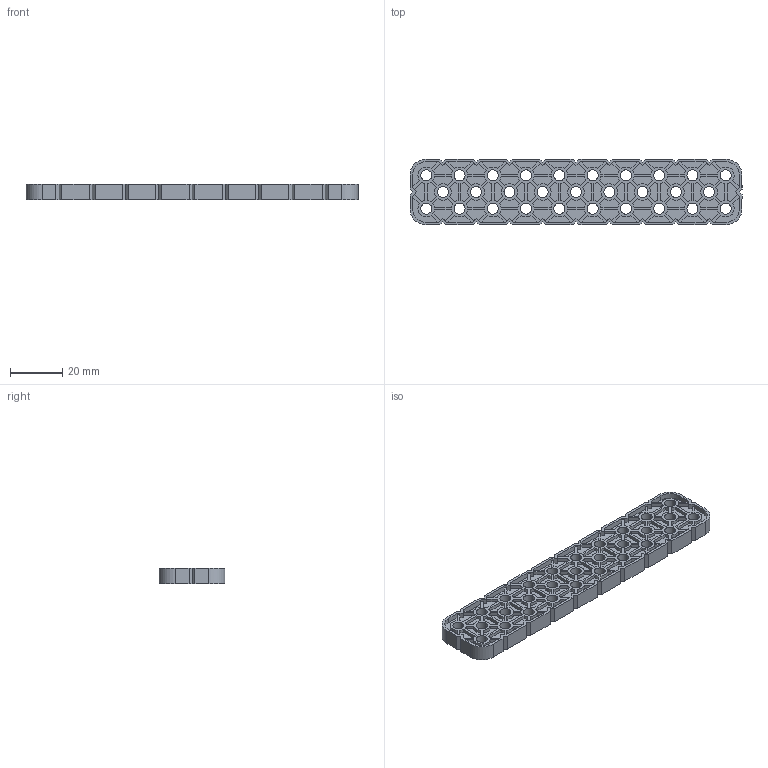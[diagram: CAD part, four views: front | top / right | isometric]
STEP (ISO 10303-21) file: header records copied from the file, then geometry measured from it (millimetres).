
FILE_DESCRIPTION (( 'STEP AP214' ), '1' );
FILE_NAME ('228-2500-025.STEP', '2021-02-18T19:31:48', ( '' ), ( '' ), 'SwSTEP 2.0', 'SolidWorks 2019', '' );
FILE_SCHEMA (( 'AUTOMOTIVE_DESIGN' ));
Length unit declared in the file: millimetre
Products named in the file (1): 228-2500-025
Bounding box: 126.7 x 25.1 x 6.1 mm (x, y, z)
Volume: 9152.7 mm3; surface area: 13528.1 mm2
Topology: 1 solids, 1 shells, 1192 faces, 3348 edges, 2232 vertices
Faces by surface type: plane 764, cylinder 428
Entity records: 38598 total; most frequent: CARTESIAN_POINT 6773, ORIENTED_EDGE 6696, DIRECTION 6590, EDGE_CURVE 3348, VECTOR 2492, LINE 2492, VERTEX_POINT 2232, AXIS2_PLACEMENT_3D 2049
